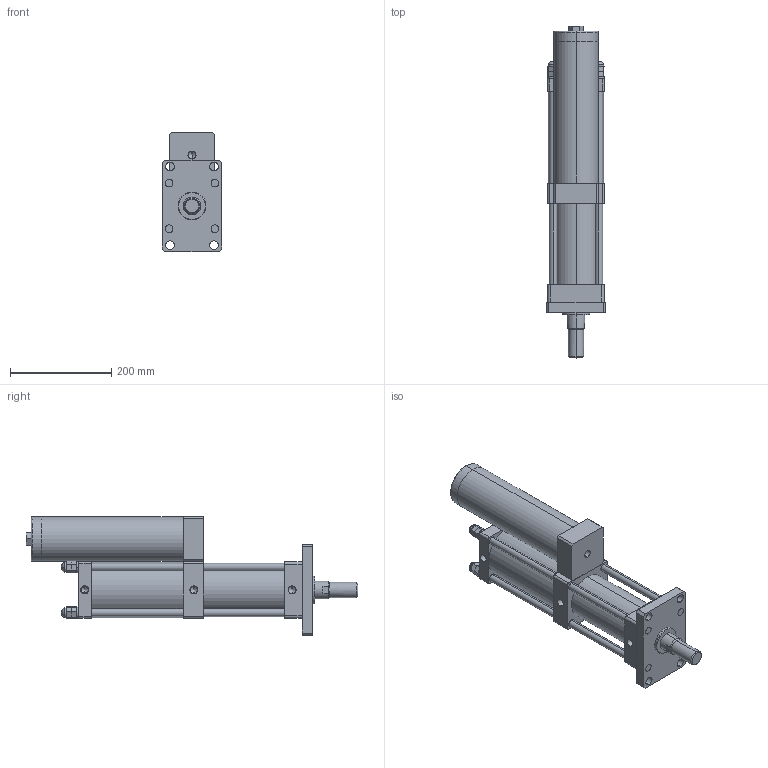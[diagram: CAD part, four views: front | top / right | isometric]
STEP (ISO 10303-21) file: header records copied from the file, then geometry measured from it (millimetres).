
FILE_DESCRIPTION (( 'STEP AP203' ), '1' );
FILE_NAME ('MPT-80-100-10-5T.STEP', '2016-03-11T01:37:55', ( 'WIN' ), ( '' ), 'SwSTEP 2.0', 'SolidWorks 2014', '' );
FILE_SCHEMA (( 'CONFIG_CONTROL_DESIGN' ));
Length unit declared in the file: millimetre
Products named in the file (1): MPT-80-100-10-5T
Bounding box: 118 x 655 x 235 mm (x, y, z)
Volume: 5387642.2 mm3; surface area: 649489.9 mm2
Topology: 20 solids, 20 shells, 391 faces, 954 edges, 554 vertices
Faces by surface type: plane 184, cylinder 84, torus 48, bspline 48, cone 27
Entity records: 12532 total; most frequent: CARTESIAN_POINT 3676, DIRECTION 1861, ORIENTED_EDGE 1776, EDGE_CURVE 888, AXIS2_PLACEMENT_3D 683, VERTEX_POINT 554, VECTOR 495, LINE 495
